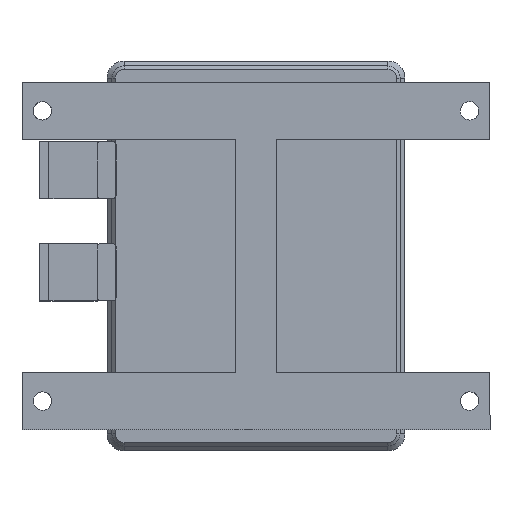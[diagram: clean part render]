
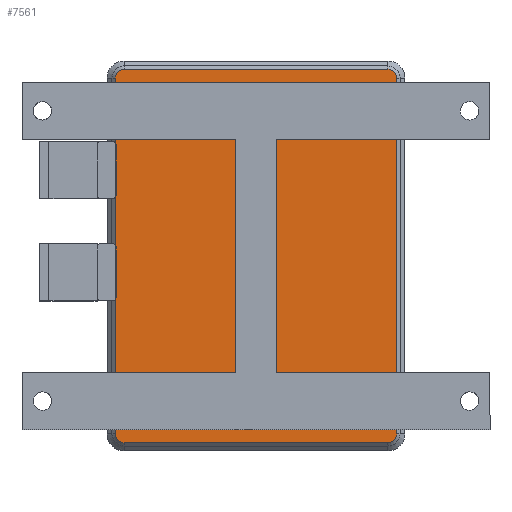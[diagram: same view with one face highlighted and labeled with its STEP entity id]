
A CAD part, top view. The second image highlights one B-rep face of the part: STEP entity #7561.
In plain terms, the highlighted planar face has unit normal (0, 0, 1).
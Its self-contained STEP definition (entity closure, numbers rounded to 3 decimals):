
#12=DIRECTION('',(1.0,0.0,0.0));
#1487=DIRECTION('',(0.0,-1.0,0.0));
#1547=DIRECTION('',(-1.0,0.0,0.0));
#1655=DIRECTION('',(0.0,1.0,0.0));
#3419=CARTESIAN_POINT('',(14.1,-35.9,38.));
#3421=VERTEX_POINT('',#3419);
#3424=VECTOR('',#1655,3.2);
#3425=CARTESIAN_POINT('',(14.1,-39.1,38.));
#3426=LINE('',#3425,#3424);
#3427=VERTEX_POINT('',#3425);
#3428=EDGE_CURVE('',#3427,#3421,#3426,.T.);
#3440=VECTOR('',#12,1.8);
#3441=LINE('',#3425,#3440);
#3442=CARTESIAN_POINT('',(15.9,-39.1,38.));
#3443=VERTEX_POINT('',#3442);
#3444=EDGE_CURVE('',#3427,#3443,#3441,.T.);
#3461=LINE('',#3442,#3424);
#3462=CARTESIAN_POINT('',(15.9,-35.9,38.));
#3463=VERTEX_POINT('',#3462);
#3464=EDGE_CURVE('',#3443,#3463,#3461,.T.);
#3484=VECTOR('',#1547,1.8);
#3485=LINE('',#3462,#3484);
#3486=EDGE_CURVE('',#3463,#3421,#3485,.T.);
#3495=CARTESIAN_POINT('',(14.1,-30.9,38.));
#3499=VERTEX_POINT('',#3495);
#3502=CARTESIAN_POINT('',(14.1,-34.1,38.));
#3503=LINE('',#3502,#3424);
#3504=VERTEX_POINT('',#3502);
#3505=EDGE_CURVE('',#3504,#3499,#3503,.T.);
#3512=VECTOR('',#1487,3.2);
#3523=LINE('',#3502,#3440);
#3524=CARTESIAN_POINT('',(15.9,-34.1,38.));
#3525=VERTEX_POINT('',#3524);
#3526=EDGE_CURVE('',#3504,#3525,#3523,.T.);
#3548=CARTESIAN_POINT('',(15.9,-30.9,38.));
#3549=LINE('',#3548,#3512);
#3550=VERTEX_POINT('',#3548);
#3551=EDGE_CURVE('',#3550,#3525,#3549,.T.);
#3566=LINE('',#3495,#3440);
#3567=EDGE_CURVE('',#3499,#3550,#3566,.T.);
#3583=CARTESIAN_POINT('',(-15.9,-35.9,38.));
#3585=VERTEX_POINT('',#3583);
#3588=CARTESIAN_POINT('',(-15.9,-39.1,38.));
#3589=LINE('',#3588,#3424);
#3590=VERTEX_POINT('',#3588);
#3591=EDGE_CURVE('',#3590,#3585,#3589,.T.);
#3608=LINE('',#3588,#3440);
#3609=CARTESIAN_POINT('',(-14.1,-39.1,38.));
#3610=VERTEX_POINT('',#3609);
#3611=EDGE_CURVE('',#3590,#3610,#3608,.T.);
#3623=CARTESIAN_POINT('',(-14.1,-35.9,38.));
#3624=LINE('',#3623,#3512);
#3625=VERTEX_POINT('',#3623);
#3626=EDGE_CURVE('',#3625,#3610,#3624,.T.);
#3646=LINE('',#3623,#3484);
#3647=EDGE_CURVE('',#3625,#3585,#3646,.T.);
#3663=CARTESIAN_POINT('',(-15.9,-30.9,38.));
#3665=VERTEX_POINT('',#3663);
#3668=LINE('',#3663,#3512);
#3669=CARTESIAN_POINT('',(-15.9,-34.1,38.));
#3670=VERTEX_POINT('',#3669);
#3671=EDGE_CURVE('',#3665,#3670,#3668,.T.);
#3683=CARTESIAN_POINT('',(-14.1,-34.1,38.));
#3684=LINE('',#3683,#3484);
#3685=VERTEX_POINT('',#3683);
#3686=EDGE_CURVE('',#3685,#3670,#3684,.T.);
#3703=LINE('',#3683,#3424);
#3704=CARTESIAN_POINT('',(-14.1,-30.9,38.));
#3705=VERTEX_POINT('',#3704);
#3706=EDGE_CURVE('',#3685,#3705,#3703,.T.);
#3723=LINE('',#3704,#3484);
#3724=EDGE_CURVE('',#3705,#3665,#3723,.T.);
#5330=CARTESIAN_POINT('',(-34.45,43.5,38.));
#5332=VERTEX_POINT('',#5330);
#5338=CARTESIAN_POINT('',(-32.25,45.7,38.));
#5340=VERTEX_POINT('',#5338);
#5343=CARTESIAN_POINT('',(-32.25,45.7,38.));
#5344=CARTESIAN_POINT('',(-32.67,45.7,38.));
#5345=CARTESIAN_POINT('',(-33.483,45.378,38.));
#5346=CARTESIAN_POINT('',(-34.128,44.733,38.));
#5347=CARTESIAN_POINT('',(-34.45,43.92,38.));
#5348=(BOUNDED_CURVE()B_SPLINE_CURVE(2,(#5330,#5347,#5346,#5345,#5344,#5343),.UNSPECIFIED.,.U.,.U.)B_SPLINE_CURVE_WITH_KNOTS((3,1,1,1,3),(0.0,0.25,0.5,0.75,1.0),.UNSPECIFIED.)CURVE()GEOMETRIC_REPRESENTATION_ITEM()RATIONAL_B_SPLINE_CURVE((1.0,0.927,0.854,0.854,0.927,1.0))REPRESENTATION_ITEM(''));
#5349=EDGE_CURVE('',#5332,#5340,#5348,.T.);
#5361=CARTESIAN_POINT('',(32.25,45.7,38.));
#5363=VERTEX_POINT('',#5361);
#5369=CARTESIAN_POINT('',(34.45,43.5,38.));
#5371=VERTEX_POINT('',#5369);
#5374=CARTESIAN_POINT('',(34.45,43.5,38.));
#5375=CARTESIAN_POINT('',(34.45,43.92,38.));
#5376=CARTESIAN_POINT('',(34.128,44.733,38.));
#5377=CARTESIAN_POINT('',(33.483,45.378,38.));
#5378=CARTESIAN_POINT('',(32.67,45.7,38.));
#5379=(BOUNDED_CURVE()B_SPLINE_CURVE(2,(#5361,#5378,#5377,#5376,#5375,#5374),.UNSPECIFIED.,.U.,.U.)B_SPLINE_CURVE_WITH_KNOTS((3,1,1,1,3),(0.0,0.25,0.5,0.75,1.0),.UNSPECIFIED.)CURVE()GEOMETRIC_REPRESENTATION_ITEM()RATIONAL_B_SPLINE_CURVE((1.0,0.927,0.854,0.854,0.927,1.0))REPRESENTATION_ITEM(''));
#5380=EDGE_CURVE('',#5363,#5371,#5379,.T.);
#5393=DIRECTION('',(1.0,0.,0.0));
#5394=VECTOR('',#5393,64.5);
#5395=LINE('',#5338,#5394);
#5396=EDGE_CURVE('',#5340,#5363,#5395,.T.);
#7490=DIRECTION('',(-0.0,0.,1.0));
#7491=CARTESIAN_POINT('',(-34.45,-45.7,38.));
#7492=AXIS2_PLACEMENT_3D('',#7491,#7490,#12);
#7493=PLANE('',#7492);
#7494=ORIENTED_EDGE('',*,*,#3444,.F.);
#7495=ORIENTED_EDGE('',*,*,#3464,.F.);
#7496=ORIENTED_EDGE('',*,*,#3486,.F.);
#7497=ORIENTED_EDGE('',*,*,#3428,.T.);
#7498=EDGE_LOOP('',(#7497,#7496,#7495,#7494));
#7499=FACE_BOUND('',#7498,.T.);
#7500=ORIENTED_EDGE('',*,*,#3526,.F.);
#7501=ORIENTED_EDGE('',*,*,#3551,.T.);
#7502=ORIENTED_EDGE('',*,*,#3567,.T.);
#7503=ORIENTED_EDGE('',*,*,#3505,.T.);
#7504=EDGE_LOOP('',(#7503,#7502,#7501,#7500));
#7505=FACE_BOUND('',#7504,.T.);
#7506=ORIENTED_EDGE('',*,*,#3611,.F.);
#7507=ORIENTED_EDGE('',*,*,#3626,.T.);
#7508=ORIENTED_EDGE('',*,*,#3647,.F.);
#7509=ORIENTED_EDGE('',*,*,#3591,.T.);
#7510=EDGE_LOOP('',(#7509,#7508,#7507,#7506));
#7511=FACE_BOUND('',#7510,.T.);
#7512=ORIENTED_EDGE('',*,*,#3671,.F.);
#7513=ORIENTED_EDGE('',*,*,#3686,.T.);
#7514=ORIENTED_EDGE('',*,*,#3706,.F.);
#7515=ORIENTED_EDGE('',*,*,#3724,.F.);
#7516=EDGE_LOOP('',(#7515,#7514,#7513,#7512));
#7517=FACE_BOUND('',#7516,.T.);
#7518=ORIENTED_EDGE('',*,*,#5349,.F.);
#7519=ORIENTED_EDGE('',*,*,#5396,.F.);
#7520=ORIENTED_EDGE('',*,*,#5380,.F.);
#7521=DIRECTION('',(0.,-1.0,0.));
#7522=VECTOR('',#7521,87.);
#7523=LINE('',#5369,#7522);
#7524=CARTESIAN_POINT('',(34.45,-43.5,38.));
#7525=VERTEX_POINT('',#7524);
#7526=EDGE_CURVE('',#5371,#7525,#7523,.T.);
#7527=ORIENTED_EDGE('',*,*,#7526,.F.);
#7528=CARTESIAN_POINT('',(32.25,-45.7,38.));
#7529=CARTESIAN_POINT('',(32.67,-45.7,38.));
#7530=CARTESIAN_POINT('',(33.483,-45.378,38.));
#7531=CARTESIAN_POINT('',(34.128,-44.733,38.));
#7532=CARTESIAN_POINT('',(34.45,-43.92,38.));
#7533=(BOUNDED_CURVE()B_SPLINE_CURVE(2,(#7524,#7532,#7531,#7530,#7529,#7528),.UNSPECIFIED.,.U.,.U.)B_SPLINE_CURVE_WITH_KNOTS((3,1,1,1,3),(0.0,0.25,0.5,0.75,1.0),.UNSPECIFIED.)CURVE()GEOMETRIC_REPRESENTATION_ITEM()RATIONAL_B_SPLINE_CURVE((1.0,0.927,0.854,0.854,0.927,1.0))REPRESENTATION_ITEM(''));
#7534=VERTEX_POINT('',#7528);
#7535=EDGE_CURVE('',#7525,#7534,#7533,.T.);
#7536=ORIENTED_EDGE('',*,*,#7535,.F.);
#7537=DIRECTION('',(-1.0,0.,0.0));
#7538=VECTOR('',#7537,64.5);
#7539=LINE('',#7528,#7538);
#7540=CARTESIAN_POINT('',(-32.25,-45.7,38.));
#7541=VERTEX_POINT('',#7540);
#7542=EDGE_CURVE('',#7534,#7541,#7539,.T.);
#7543=ORIENTED_EDGE('',*,*,#7542,.F.);
#7544=CARTESIAN_POINT('',(-34.45,-43.5,38.));
#7545=CARTESIAN_POINT('',(-34.45,-43.92,38.));
#7546=CARTESIAN_POINT('',(-34.128,-44.733,38.));
#7547=CARTESIAN_POINT('',(-33.483,-45.378,38.));
#7548=CARTESIAN_POINT('',(-32.67,-45.7,38.));
#7549=(BOUNDED_CURVE()B_SPLINE_CURVE(2,(#7540,#7548,#7547,#7546,#7545,#7544),.UNSPECIFIED.,.U.,.U.)B_SPLINE_CURVE_WITH_KNOTS((3,1,1,1,3),(0.0,0.25,0.5,0.75,1.0),.UNSPECIFIED.)CURVE()GEOMETRIC_REPRESENTATION_ITEM()RATIONAL_B_SPLINE_CURVE((1.0,0.927,0.854,0.854,0.927,1.0))REPRESENTATION_ITEM(''));
#7550=CARTESIAN_POINT('',(-34.45,-43.5,38.));
#7551=VERTEX_POINT('',#7550);
#7552=EDGE_CURVE('',#7541,#7551,#7549,.T.);
#7553=ORIENTED_EDGE('',*,*,#7552,.F.);
#7554=DIRECTION('',(0.,1.0,0.));
#7555=VECTOR('',#7554,87.);
#7556=LINE('',#7550,#7555);
#7557=EDGE_CURVE('',#7551,#5332,#7556,.T.);
#7558=ORIENTED_EDGE('',*,*,#7557,.F.);
#7559=EDGE_LOOP('',(#7558,#7553,#7543,#7536,#7527,#7520,#7519,#7518));
#7560=FACE_BOUND('',#7559,.T.);
#7561=ADVANCED_FACE('',(#7560,#7517,#7511,#7505,#7499),#7493,.T.);
